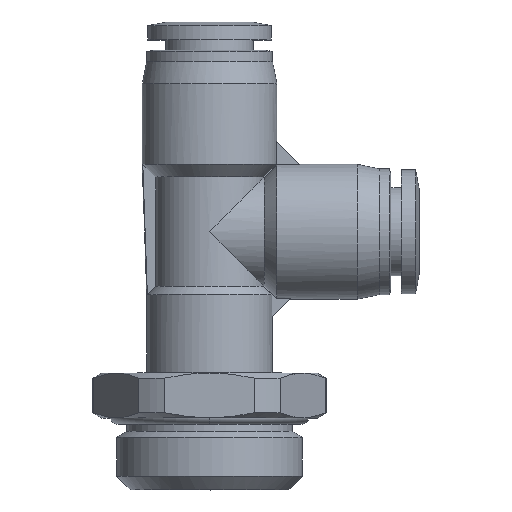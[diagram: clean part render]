
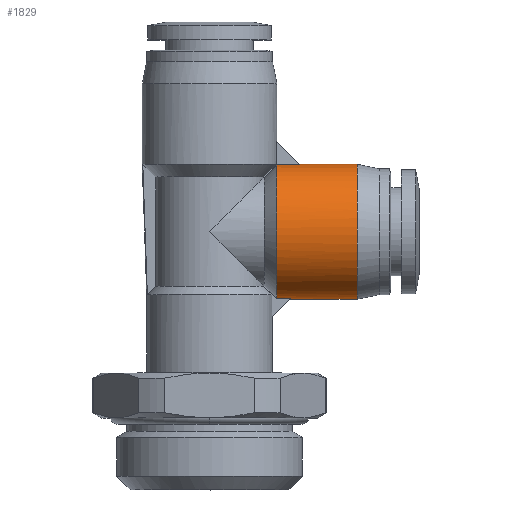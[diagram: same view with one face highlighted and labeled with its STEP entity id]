
A CAD part, top view. The second image highlights one B-rep face of the part: STEP entity #1829.
In plain terms, the highlighted cylindrical face has radius 7.5 mm (diameter 15 mm), a partial arc.
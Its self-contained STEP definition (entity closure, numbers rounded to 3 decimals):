
#44 = AXIS2_PLACEMENT_3D ( 'NONE', #3900, #2067, #1127 ) ;
#122 = ORIENTED_EDGE ( 'NONE', *, *, #4213, .F. ) ;
#271 = EDGE_LOOP ( 'NONE', ( #1795, #4121, #122, #3594, #2492, #5020, #3195, #3825 ) ) ;
#310 = VERTEX_POINT ( 'NONE', #974 ) ;
#390 = CARTESIAN_POINT ( 'NONE',  ( 9., 8.25, 0.333 ) ) ;
#393 = B_SPLINE_CURVE_WITH_KNOTS ( 'NONE', 3,
 ( #1128, #3336, #2888, #1157 ),
 .UNSPECIFIED., .F., .F.,
 ( 4, 4 ),
 ( 0., 1. ),
 .UNSPECIFIED. ) ;
#479 = CARTESIAN_POINT ( 'NONE',  ( 7.5, 10.137, 5.055 ) ) ;
#506 = CARTESIAN_POINT ( 'NONE',  ( 16.45, 21.748, 4.609 ) ) ;
#551 = EDGE_CURVE ( 'NONE', #1779, #310, #4879, .T. ) ;
#639 = LINE ( 'NONE', #3750, #4471 ) ;
#839 = CARTESIAN_POINT ( 'NONE',  ( 7.5, 8.437, 1.89 ) ) ;
#843 = VERTEX_POINT ( 'NONE', #4641 ) ;
#894 = CARTESIAN_POINT ( 'NONE',  ( 7.5, 23.183, 1. ) ) ;
#939 = CARTESIAN_POINT ( 'NONE',  ( 16.45, 23.25, 0.982 ) ) ;
#974 = CARTESIAN_POINT ( 'NONE',  ( 9.067, 8.317, 1. ) ) ;
#1093 = CARTESIAN_POINT ( 'NONE',  ( 16.45, 8.445, 1.963 ) ) ;
#1108 = CARTESIAN_POINT ( 'NONE',  ( 16.45, 23.25, 0. ) ) ;
#1127 = DIRECTION ( 'NONE',  ( 0., 1., 0. ) ) ;
#1128 = CARTESIAN_POINT ( 'NONE',  ( 9.067, 8.317, 1. ) ) ;
#1157 = CARTESIAN_POINT ( 'NONE',  ( 7.5, 8.317, 1. ) ) ;
#1183 = B_SPLINE_CURVE_WITH_KNOTS ( 'NONE', 3,
 ( #4977, #939, #2735, #4529, #506, #2761, #1938, #4655, #5537, #3204, #1437, #1529, #4212, #4686, #2849, #1093, #1903, #1463 ),
 .UNSPECIFIED., .F., .F.,
 ( 4, 2, 2, 2, 2, 2, 2, 2, 4 ),
 ( 0., 0.063, 0.125, 0.188, 0.25, 0.313, 0.375, 0.438, 0.5 ),
 .UNSPECIFIED. ) ;
#1258 = VERTEX_POINT ( 'NONE', #3953 ) ;
#1297 = CARTESIAN_POINT ( 'NONE',  ( 7.5, 17.546, 7.337 ) ) ;
#1315 = CARTESIAN_POINT ( 'NONE',  ( 9., 8.25, 0. ) ) ;
#1323 = CARTESIAN_POINT ( 'NONE',  ( 7.5, 14.852, 7.5 ) ) ;
#1378 = CARTESIAN_POINT ( 'NONE',  ( 7.5, 16.648, 7.5 ) ) ;
#1395 = CARTESIAN_POINT ( 'NONE',  ( 7.5, 23.183, 1. ) ) ;
#1437 = CARTESIAN_POINT ( 'NONE',  ( 16.45, 13.787, 7.305 ) ) ;
#1463 = CARTESIAN_POINT ( 'NONE',  ( 16.45, 8.25, 0. ) ) ;
#1501 = CARTESIAN_POINT ( 'NONE',  ( 10.067, 23.183, 1. ) ) ;
#1514 = LINE ( 'NONE', #4168, #1934 ) ;
#1529 = CARTESIAN_POINT ( 'NONE',  ( 16.45, 11.973, 6.553 ) ) ;
#1659 = VERTEX_POINT ( 'NONE', #894 ) ;
#1716 = CARTESIAN_POINT ( 'NONE',  ( 7.5, 13.954, 7.337 ) ) ;
#1779 = VERTEX_POINT ( 'NONE', #3459 ) ;
#1795 = ORIENTED_EDGE ( 'NONE', *, *, #551, .F. ) ;
#1804 = CARTESIAN_POINT ( 'NONE',  ( 8.356, 23.183, 1. ) ) ;
#1829 = ADVANCED_FACE ( 'NONE', ( #2099 ), #3365, .T. ) ;
#1903 = CARTESIAN_POINT ( 'NONE',  ( 16.45, 8.25, 0.982 ) ) ;
#1934 = VECTOR ( 'NONE', #5523, 1000. ) ;
#1938 = CARTESIAN_POINT ( 'NONE',  ( 16.45, 19.527, 6.553 ) ) ;
#2004 = CARTESIAN_POINT ( 'NONE',  ( 10., 23.25, 0. ) ) ;
#2023 = EDGE_CURVE ( 'NONE', #4144, #1258, #2298, .T. ) ;
#2067 = DIRECTION ( 'NONE',  ( 1., 0., 0. ) ) ;
#2099 = FACE_OUTER_BOUND ( 'NONE', #271, .T. ) ;
#2123 = CARTESIAN_POINT ( 'NONE',  ( 9.022, 8.272, 0.667 ) ) ;
#2188 = CARTESIAN_POINT ( 'NONE',  ( 7.5, 21.932, 4.341 ) ) ;
#2293 = CARTESIAN_POINT ( 'NONE',  ( 7.5, 8.317, 1. ) ) ;
#2298 = B_SPLINE_CURVE_WITH_KNOTS ( 'NONE', 3,
 ( #2004, #4185, #3741, #1501 ),
 .UNSPECIFIED., .F., .F.,
 ( 4, 4 ),
 ( 0.5, 1. ),
 .UNSPECIFIED. ) ;
#2492 = ORIENTED_EDGE ( 'NONE', *, *, #2023, .T. ) ;
#2595 = B_SPLINE_CURVE_WITH_KNOTS ( 'NONE', 3,
 ( #3134, #4911, #1804, #1395 ),
 .UNSPECIFIED., .F., .F.,
 ( 4, 4 ),
 ( 0., 1. ),
 .UNSPECIFIED. ) ;
#2628 = CARTESIAN_POINT ( 'NONE',  ( 10., 23.25, 0. ) ) ;
#2707 = CARTESIAN_POINT ( 'NONE',  ( 7.5, 20.011, 6.237 ) ) ;
#2735 = CARTESIAN_POINT ( 'NONE',  ( 16.45, 23.055, 1.963 ) ) ;
#2761 = CARTESIAN_POINT ( 'NONE',  ( 16.45, 20.359, 5.998 ) ) ;
#2771 = DIRECTION ( 'NONE',  ( 1., 0., 0. ) ) ;
#2849 = CARTESIAN_POINT ( 'NONE',  ( 16.45, 9.197, 3.777 ) ) ;
#2888 = CARTESIAN_POINT ( 'NONE',  ( 8.022, 8.317, 1. ) ) ;
#3109 = CARTESIAN_POINT ( 'NONE',  ( 9.067, 8.317, 1. ) ) ;
#3117 = CARTESIAN_POINT ( 'NONE',  ( 7.5, 12.272, 6.705 ) ) ;
#3134 = CARTESIAN_POINT ( 'NONE',  ( 10.067, 23.183, 1. ) ) ;
#3176 = CARTESIAN_POINT ( 'NONE',  ( 7.5, 8.718, 2.758 ) ) ;
#3195 = ORIENTED_EDGE ( 'NONE', *, *, #4127, .T. ) ;
#3204 = CARTESIAN_POINT ( 'NONE',  ( 16.45, 14.768, 7.5 ) ) ;
#3336 = CARTESIAN_POINT ( 'NONE',  ( 8.545, 8.317, 1. ) ) ;
#3365 = CYLINDRICAL_SURFACE ( 'NONE', #44, 7.5 ) ;
#3459 = CARTESIAN_POINT ( 'NONE',  ( 9., 8.25, 0. ) ) ;
#3594 = ORIENTED_EDGE ( 'NONE', *, *, #4506, .F. ) ;
#3638 = EDGE_CURVE ( 'NONE', #1258, #1659, #2595, .T. ) ;
#3724 = VERTEX_POINT ( 'NONE', #1108 ) ;
#3741 = CARTESIAN_POINT ( 'NONE',  ( 10.022, 23.228, 0.668 ) ) ;
#3750 = CARTESIAN_POINT ( 'NONE',  ( 11.975, 8.25, 0. ) ) ;
#3825 = ORIENTED_EDGE ( 'NONE', *, *, #4901, .F. ) ;
#3900 = CARTESIAN_POINT ( 'NONE',  ( 11.975, 15.75, 0. ) ) ;
#3953 = CARTESIAN_POINT ( 'NONE',  ( 10.067, 23.183, 1. ) ) ;
#4121 = ORIENTED_EDGE ( 'NONE', *, *, #5567, .T. ) ;
#4127 = EDGE_CURVE ( 'NONE', #1659, #843, #4620, .T. ) ;
#4144 = VERTEX_POINT ( 'NONE', #2628 ) ;
#4168 = CARTESIAN_POINT ( 'NONE',  ( 11.975, 23.25, 0. ) ) ;
#4185 = CARTESIAN_POINT ( 'NONE',  ( 10., 23.25, 0.334 ) ) ;
#4212 = CARTESIAN_POINT ( 'NONE',  ( 16.45, 11.141, 5.998 ) ) ;
#4213 = EDGE_CURVE ( 'NONE', #3724, #5426, #1183, .T. ) ;
#4471 = VECTOR ( 'NONE', #2771, 1000. ) ;
#4501 = CARTESIAN_POINT ( 'NONE',  ( 7.5, 11.489, 6.237 ) ) ;
#4506 = EDGE_CURVE ( 'NONE', #4144, #3724, #1514, .T. ) ;
#4529 = CARTESIAN_POINT ( 'NONE',  ( 16.45, 22.303, 3.777 ) ) ;
#4620 = B_SPLINE_CURVE_WITH_KNOTS ( 'NONE', 3,
 ( #5345, #5758, #5786, #2188, #4948, #2707, #5367, #1297, #1378, #1323, #1716, #3117, #4501, #479, #5320, #3176, #839, #2293 ),
 .UNSPECIFIED., .F., .F.,
 ( 4, 2, 2, 2, 2, 2, 2, 2, 4 ),
 ( 0., 0.125, 0.25, 0.375, 0.5, 0.625, 0.75, 0.875, 1. ),
 .UNSPECIFIED. ) ;
#4641 = CARTESIAN_POINT ( 'NONE',  ( 7.5, 8.317, 1. ) ) ;
#4655 = CARTESIAN_POINT ( 'NONE',  ( 16.45, 17.713, 7.305 ) ) ;
#4686 = CARTESIAN_POINT ( 'NONE',  ( 16.45, 9.752, 4.609 ) ) ;
#4879 = B_SPLINE_CURVE_WITH_KNOTS ( 'NONE', 3,
 ( #1315, #390, #2123, #3109 ),
 .UNSPECIFIED., .F., .F.,
 ( 4, 4 ),
 ( 0.5, 1. ),
 .UNSPECIFIED. ) ;
#4901 = EDGE_CURVE ( 'NONE', #310, #843, #393, .T. ) ;
#4911 = CARTESIAN_POINT ( 'NONE',  ( 9.211, 23.183, 1. ) ) ;
#4948 = CARTESIAN_POINT ( 'NONE',  ( 7.5, 21.363, 5.055 ) ) ;
#4977 = CARTESIAN_POINT ( 'NONE',  ( 16.45, 23.25, 0. ) ) ;
#5020 = ORIENTED_EDGE ( 'NONE', *, *, #3638, .T. ) ;
#5320 = CARTESIAN_POINT ( 'NONE',  ( 7.5, 9.568, 4.341 ) ) ;
#5345 = CARTESIAN_POINT ( 'NONE',  ( 7.5, 23.183, 1. ) ) ;
#5367 = CARTESIAN_POINT ( 'NONE',  ( 7.5, 19.228, 6.705 ) ) ;
#5426 = VERTEX_POINT ( 'NONE', #5677 ) ;
#5523 = DIRECTION ( 'NONE',  ( 1., 0., 0. ) ) ;
#5537 = CARTESIAN_POINT ( 'NONE',  ( 16.45, 16.732, 7.5 ) ) ;
#5567 = EDGE_CURVE ( 'NONE', #1779, #5426, #639, .T. ) ;
#5677 = CARTESIAN_POINT ( 'NONE',  ( 16.45, 8.25, 0. ) ) ;
#5758 = CARTESIAN_POINT ( 'NONE',  ( 7.5, 23.063, 1.89 ) ) ;
#5786 = CARTESIAN_POINT ( 'NONE',  ( 7.5, 22.782, 2.758 ) ) ;
